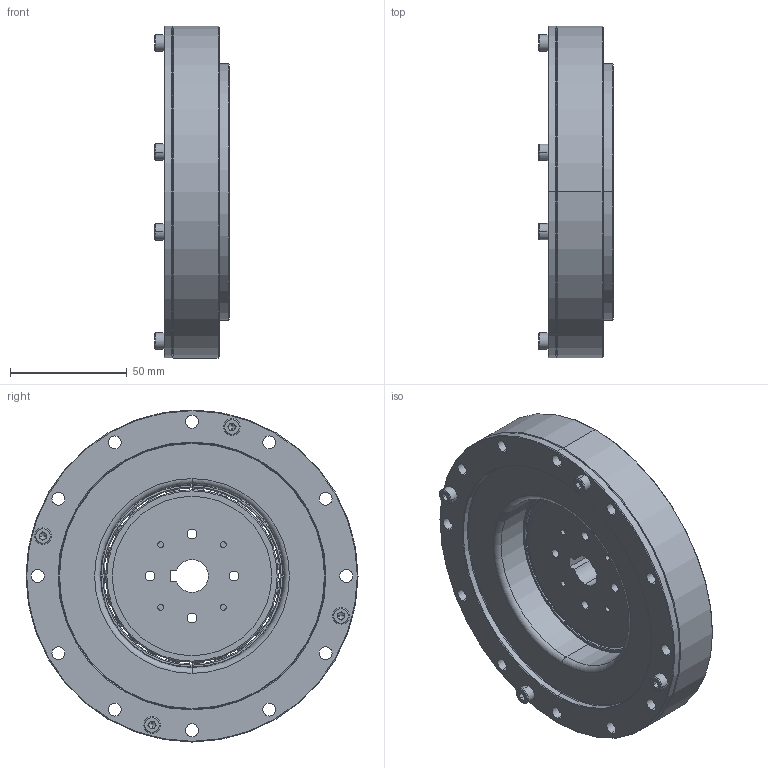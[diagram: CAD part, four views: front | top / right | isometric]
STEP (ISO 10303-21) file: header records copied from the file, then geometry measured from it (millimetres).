
FILE_DESCRIPTION (( 'STEP AP203' ), '1' );
FILE_NAME ('LHD-32-XXX-C-I.STEP', '2016-08-03T06:09:19', ( 'lenovo' ), ( 'Microsoft' ), 'SwSTEP 2.0', 'SolidWorks 2013', '' );
FILE_SCHEMA (( 'CONFIG_CONTROL_DESIGN' ));
Length unit declared in the file: millimetre
Products named in the file (13): DIN 912 M4 x 10 --- 10C_DIN 912 M4 x 10 --- 10C; DIN 912 M4 x 8 --- 8C_DIN 912 M4 x 8 --- 8C; ISO 7046-1 - M3 x 6 - Z --- 6C_ISO 7046-1 - M3 x 6 - Z --- 6C; LHD-32-XXX-P03; RZC内外圈+钢珠; DB-32-I; 悵厥殤; LHD-32-XXX-P01; RZC-32; LHD-32-XXX-P04; LHD-32-XXX-C-I; LHD-32-XXX-P02; YF-32-I
Assembly tree (23 placements, depth 3):
  LHD-32-XXX-C-I
    LHD-32-XXX-P03
    DB-32-I
    LHD-32-XXX-P01
    LHD-32-XXX-P04
    LHD-32-XXX-P02
    YF-32-I
    DIN 912 M4 x 10 --- 10C_DIN 912 M4 x 10 --- 10C  x4
    DIN 912 M4 x 8 --- 8C_DIN 912 M4 x 8 --- 8C  x6
    ISO 7046-1 - M3 x 6 - Z --- 6C_ISO 7046-1 - M3 x 6 - Z --- 6C  x4
    RZC-32
      RZC内外圈+钢珠
      悵厥殤
Bounding box: 31.95 x 142 x 142 mm (x, y, z)
Volume: 260424.8 mm3; surface area: 158226.6 mm2
Topology: 24 solids, 24 shells, 1068 faces, 2697 edges, 1635 vertices
Faces by surface type: cylinder 421, plane 337, cone 178, torus 86, sphere 46
Entity records: 24698 total; most frequent: CARTESIAN_POINT 4779, DIRECTION 4236, ORIENTED_EDGE 3572, AXIS2_PLACEMENT_3D 1845, EDGE_CURVE 1786, VERTEX_POINT 1140, CIRCLE 1089, EDGE_LOOP 930
